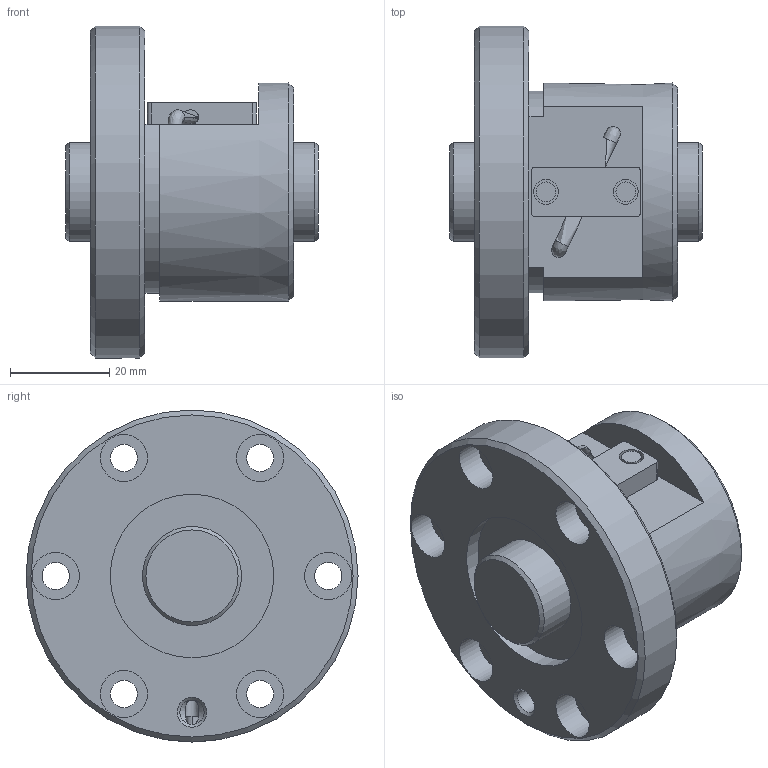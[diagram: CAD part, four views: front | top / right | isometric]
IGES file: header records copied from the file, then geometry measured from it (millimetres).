
Start section: Data from Parasolid IGES Translator 26.0.171, Copyright(c) 2006 Siemens PLM Software. All Rights Reserved.
Global section: file name: BNF2005V-2.5RRG1+51LC0_000_rev.igs; native system: By Siemens PLM Incorporated; preprocessor: XPlus GENERIC/IGES 26.0.171; author: Noname; organization: Noname; date: 20240806.072813; units: millimetre
Bounding box: 51 x 67 x 67 mm (x, y, z)
Surface area: 21779.7 mm2 (no closed solid volume)
Topology: 0 solids, 0 shells, 72 faces, 316 edges, 268 vertices
Faces by surface type: revolution 45, extrusion 27
